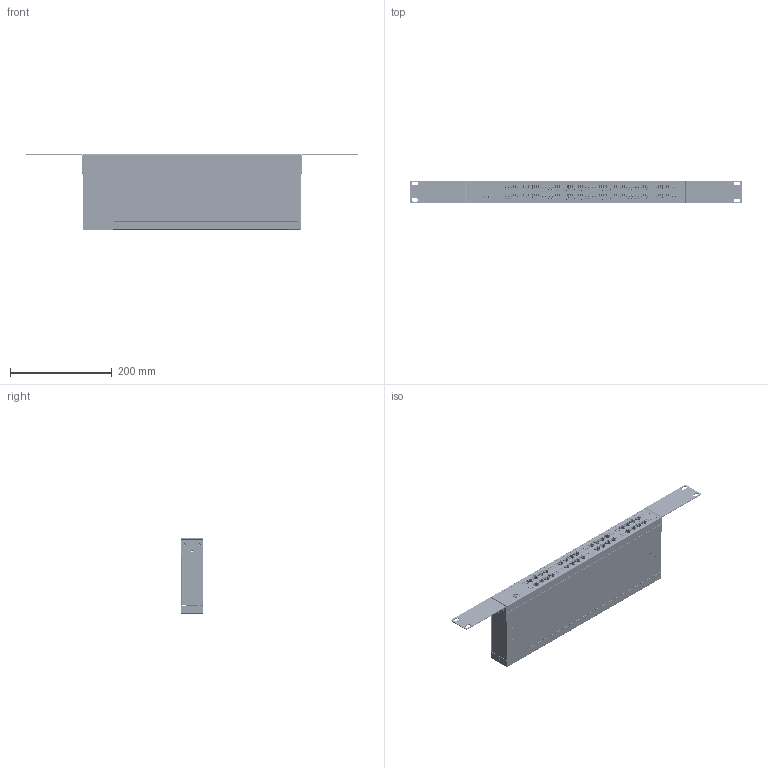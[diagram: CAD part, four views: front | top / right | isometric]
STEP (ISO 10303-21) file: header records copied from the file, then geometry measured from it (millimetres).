
FILE_DESCRIPTION(/* description */ (''),/* implementation_level */ '2;1');
FILE_NAME(/* name */ '/Users/leo/Desktop/Coolgear May/USB-32com-rm/USB-32com-rm v2.step',/* time_stamp */ '2021-09-16T15:52:21-04:00',/* author */ (''),/* organization */ (''),/* preprocessor_version */ 'ST-DEVELOPER v18.1',/* originating_system */ 'Autodesk Translation Framework v10.10.0.1391',/* authorisation */ '');
FILE_SCHEMA (('AUTOMOTIVE_DESIGN { 1 0 10303 214 3 1 1 }'));
Products named in the file (228): USB-32com-rm; Component1; 93090A547_Press-Fit Threaded Standoffs; 93090A547_Press-Fit Threaded Standoffs (1); Component4; Component5; 1333N21_IEC Connector; USB type B first Gen White v3; Housing1; pin1; shielding; pin2; shielding_2; Housing3; Component18; Component19; Bolt M3X0.5 100Angle 5mmHead.5 China 120ang METRIC 18-8 SS FLAT HEAD 
PHIL MACHINE SCREW v2; ethernet LAN  4th connector v1; ethernet LAN  4th connector v1_1; ethernet LAN  4th connector v1_2; ethernet LAN  4th connector v1_3; ethernet LAN  4th connector v1_4; ethernet LAN  4th connector v1_5; ethernet LAN  4th connector v1_6; ethernet LAN  4th connector v1_7; RJ45 Lower Insert; RJ45 Odd Pins; RJ45 Even Pins; RJ45 Main Insert; RJ45 Shell; LED 2 Block mounting pcb v4; 6611124864; 6611124480; 6662586176; 6662585792; 6662585408; LED 2 Block mounting pcb v4_1; 6611124864_1; 6611124480_1; 6662586176_1 ...
Assembly tree (480 placements, depth 4):
  USB-32com-rm
    Component1
    93090A547_Press-Fit Threaded Standoffs  x5
    93090A547_Press-Fit Threaded Standoffs (1)  x3
    Component4
    Component5
    1333N21_IEC Connector
    USB type B first Gen White v3
      Housing1
      pin1  x2
      shielding
      pin2  x2
      shielding_2
      Housing3
    Component18
    Component19
    Bolt M3X0.5 100Angle 5mmHead.5 China 120ang METRIC 18-8 SS FLAT HEAD 
PHIL MACHINE SCREW v2  x8
    ethernet LAN  4th connector v1
      RJ45 Lower Insert
      RJ45 Odd Pins  x4
      RJ45 Even Pins  x4
      RJ45 Main Insert
      RJ45 Shell
    ethernet LAN  4th connector v1_1
      RJ45 Lower Insert
      RJ45 Odd Pins  x4
      RJ45 Even Pins  x4
      RJ45 Main Insert
      RJ45 Shell
    ethernet LAN  4th connector v1_2
      RJ45 Lower Insert
      RJ45 Odd Pins  x4
      RJ45 Even Pins  x4
      RJ45 Main Insert
      RJ45 Shell
    ethernet LAN  4th connector v1_3
      RJ45 Lower Insert
      RJ45 Odd Pins  x4
      RJ45 Even Pins  x4
      RJ45 Main Insert
      RJ45 Shell
    ethernet LAN  4th connector v1_4
      RJ45 Lower Insert
      RJ45 Odd Pins  x4
      RJ45 Even Pins  x4
      RJ45 Main Insert
      RJ45 Shell
    ethernet LAN  4th connector v1_5
      RJ45 Lower Insert
      RJ45 Odd Pins  x4
      RJ45 Even Pins  x4
      RJ45 Main Insert
      RJ45 Shell
    ethernet LAN  4th connector v1_6
      RJ45 Lower Insert
      RJ45 Odd Pins  x4
      RJ45 Even Pins  x4
      RJ45 Main Insert
      RJ45 Shell
    ethernet LAN  4th connector v1_7
Bounding box: 651.06 x 44.8 x 148.55 mm (x, y, z)
Volume: 320097.6 mm3; surface area: 565374.7 mm2
Topology: 4 solids, 19 shells, 21970 faces, 63819 edges, 39356 vertices
Faces by surface type: plane 18670, cylinder 2999, cone 126, sphere 104, bspline 49, torus 22
Full cylindrical faces by diameter (mm): 0.9 x32, 1.65 x3, 2 x3, 2.35 x32, 2.529 x20, 3 x179, 3.5 x7, 4.765 x3, 5.4 x7
Entity records: 737664 total; most frequent: CARTESIAN_POINT 147258, ORIENTED_EDGE 128032, DIRECTION 114752, EDGE_CURVE 64016, LINE 56704, VECTOR 56704, VERTEX_POINT 39409, AXIS2_PLACEMENT_3D 29024
